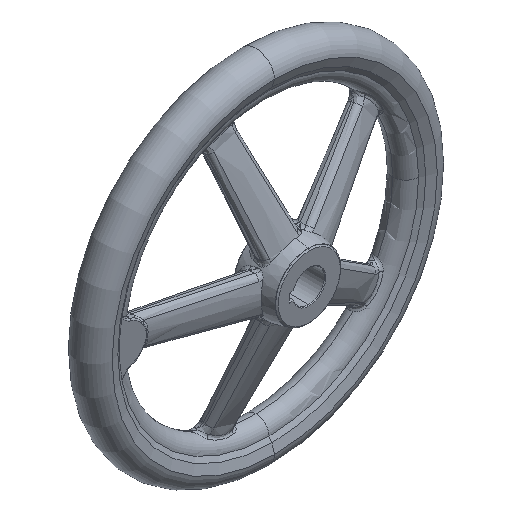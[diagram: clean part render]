
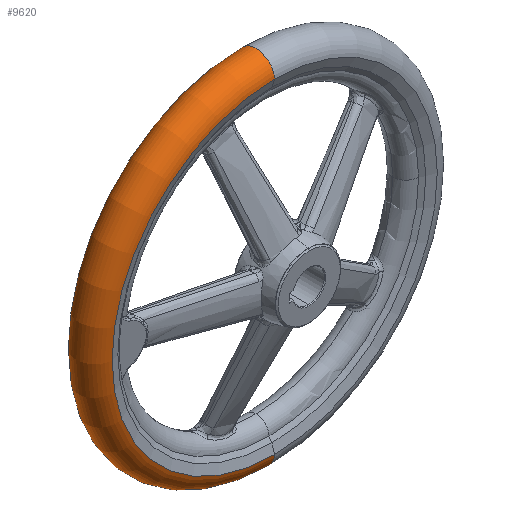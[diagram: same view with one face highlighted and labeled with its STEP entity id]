
A CAD part, isometric view. The second image highlights one B-rep face of the part: STEP entity #9620.
In plain terms, the highlighted toroidal (fillet/blend) face has major radius 111.958 mm and minor radius 13.042 mm.
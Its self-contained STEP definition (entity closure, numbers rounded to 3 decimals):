
#3106 = CARTESIAN_POINT ( 'NONE',  ( 0., 37., -111.958 ) ) ;
#3107 = AXIS2_PLACEMENT_3D ( 'NONE', #3106, #3254, #3253 ) ;
#3113 = CIRCLE ( 'NONE', #3107, 13.042 ) ;
#3253 = DIRECTION ( 'NONE',  ( 0., 0., 1. ) ) ;
#3254 = DIRECTION ( 'NONE',  ( -1., 0., 0. ) ) ;
#3503 = CARTESIAN_POINT ( 'NONE',  ( 0., 50., 113. ) ) ;
#3521 = CARTESIAN_POINT ( 'NONE',  ( 0., 50., -113. ) ) ;
#3525 = DIRECTION ( 'NONE',  ( 0., -1., 0. ) ) ;
#3534 = CIRCLE ( 'NONE', #3573, 13.042 ) ;
#3535 = DIRECTION ( 'NONE',  ( 0., 0., -1. ) ) ;
#3536 = DIRECTION ( 'NONE',  ( 0., -1., 0. ) ) ;
#3537 = AXIS2_PLACEMENT_3D ( 'NONE', #3545, #3536, #3535 ) ;
#3538 = CIRCLE ( 'NONE', #3537, 113. ) ;
#3545 = CARTESIAN_POINT ( 'NONE',  ( 0., 50., 0. ) ) ;
#3553 = CIRCLE ( 'NONE', #3603, 113. ) ;
#3560 = CARTESIAN_POINT ( 'NONE',  ( 0., 24., 0. ) ) ;
#3570 = DIRECTION ( 'NONE',  ( 0., 0., -1. ) ) ;
#3571 = DIRECTION ( 'NONE',  ( 1., 0., 0. ) ) ;
#3572 = CARTESIAN_POINT ( 'NONE',  ( 0., 37., 111.958 ) ) ;
#3573 = AXIS2_PLACEMENT_3D ( 'NONE', #3572, #3571, #3570 ) ;
#3602 = DIRECTION ( 'NONE',  ( 0., 0., -1. ) ) ;
#3603 = AXIS2_PLACEMENT_3D ( 'NONE', #3560, #3525, #3602 ) ;
#3658 = CARTESIAN_POINT ( 'NONE',  ( 0., 24., -113. ) ) ;
#3661 = CARTESIAN_POINT ( 'NONE',  ( 0., 24., 113. ) ) ;
#9608 = EDGE_LOOP ( 'NONE', ( #9626, #9622, #9638, #9629 ) ) ;
#9620 = ADVANCED_FACE ( 'NONE', ( #22371 ), #22407, .T. ) ;
#9622 = ORIENTED_EDGE ( 'NONE', *, *, #29957, .T. ) ;
#9626 = ORIENTED_EDGE ( 'NONE', *, *, #29979, .F. ) ;
#9629 = ORIENTED_EDGE ( 'NONE', *, *, #29990, .F. ) ;
#9638 = ORIENTED_EDGE ( 'NONE', *, *, #29936, .T. ) ;
#22350 = AXIS2_PLACEMENT_3D ( 'NONE', #22405, #22404, #22400 ) ;
#22371 = FACE_OUTER_BOUND ( 'NONE', #9608, .T. ) ;
#22400 = DIRECTION ( 'NONE',  ( 0., 0., -1. ) ) ;
#22404 = DIRECTION ( 'NONE',  ( 0., -1., 0. ) ) ;
#22405 = CARTESIAN_POINT ( 'NONE',  ( 0., 37., 0. ) ) ;
#22407 = TOROIDAL_SURFACE ( 'NONE', #22350, 111.958, 13.042 ) ;
#29936 = EDGE_CURVE ( 'NONE', #29969, #30023, #3113, .T. ) ;
#29952 = VERTEX_POINT ( 'NONE', #3503 ) ;
#29957 = EDGE_CURVE ( 'NONE', #29952, #29969, #3538, .T. ) ;
#29969 = VERTEX_POINT ( 'NONE', #3521 ) ;
#29979 = EDGE_CURVE ( 'NONE', #29952, #30018, #3534, .T. ) ;
#29990 = EDGE_CURVE ( 'NONE', #30018, #30023, #3553, .T. ) ;
#30018 = VERTEX_POINT ( 'NONE', #3661 ) ;
#30023 = VERTEX_POINT ( 'NONE', #3658 ) ;
